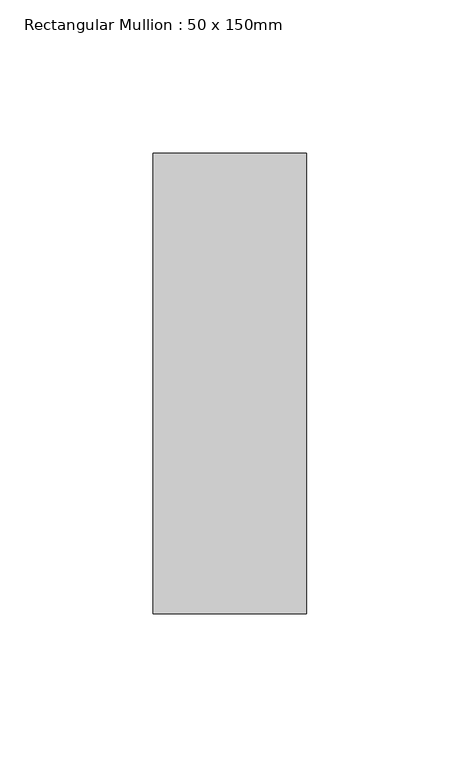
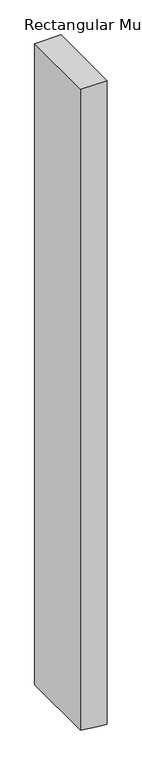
"""IFC4 building model written with IfcOpenShell, lengths in millimetres: member geometry, Rectangular Mullion : 50 x 150mm."""

from ifc_helpers import new_model, si_unit, frame, origin, place, context, project, spatial, polyline, outline, extrude, source, transform, mapped, element, save


def rectangular_mullion_50_x_150mm_c10e7e71(model_context):
    return source(origin(), model_context, "Body", "SweptSolid", [
        extrude(outline(polyline([(0.0, 25.0), (0.0, -25.0), (-1277.2051076, -25.0), (-1280.6852669, 5.6423937), (-1282.883775, 25.0), (0.0, 25.0)])), frame((0.0, -75.0, 0.0), z_axis=(0.0, 1.0, 0.0), x_axis=(0.0, 0.0, 1.0)), (0.0, 0.0, 1.0), 150.0),
    ])


if __name__ == "__main__":
    model = new_model("IFC4")
    model_context = context("Model", 3, world=origin())
    ifc_project = project(units=[si_unit("LENGTHUNIT", "METRE", prefix="MILLI")], contexts=[model_context])
    site = spatial("IfcSite", under=ifc_project)
    building = spatial("IfcBuilding", under=site)
    placement = place(None, origin())
    rectangular_mullion_50_x_150mm_shape = rectangular_mullion_50_x_150mm_c10e7e71(model_context)
    element("IfcMember", 1, ObjectType="Rectangular Mullion : 50 x 150mm", at=placement, inside=building, context=model_context, shape_type="MappedRepresentation", body=[
        mapped(rectangular_mullion_50_x_150mm_shape, transform((0.0, 0.0, 0.0), x_axis=(1.0, 0.0, 0.0), y_axis=(0.0, 1.0, 0.0), z_axis=(0.0, 0.0, 1.0))),
    ])
    save(model, "model.ifc")
